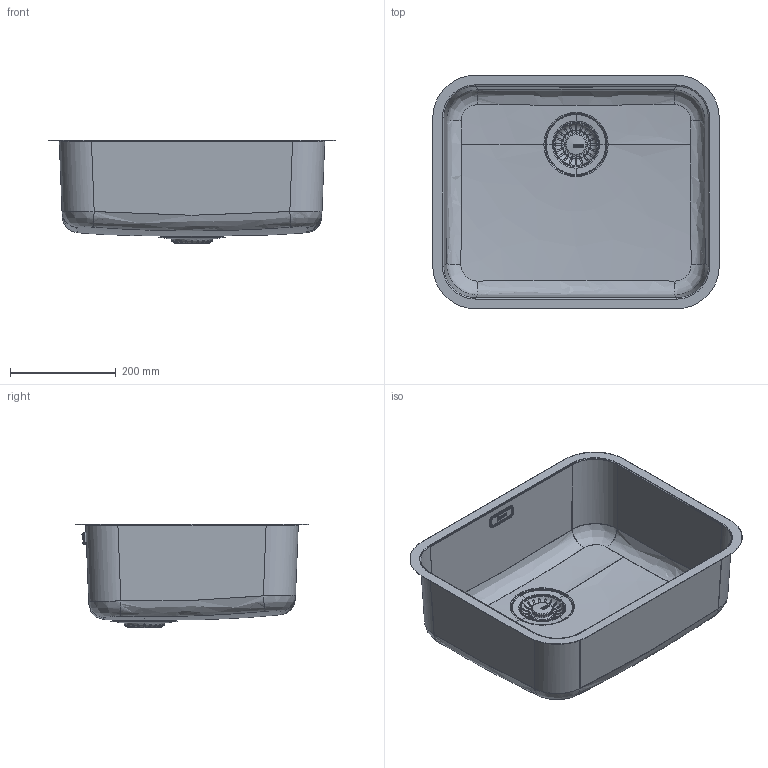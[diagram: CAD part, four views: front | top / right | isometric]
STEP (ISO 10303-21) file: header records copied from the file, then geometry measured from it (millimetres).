
FILE_DESCRIPTION(/* description */ (''),/* implementation_level */ '2;1');
FILE_NAME(/* name */ '3D001_Sinks_Smart_SRX-110-50-OFH',/* time_stamp */ '2024-07-01T10:09:27+02:00',/* author */ (''),/* organization */ (''),/* preprocessor_version */ 'ST-DEVELOPER v19.2',/* originating_system */ 'Rhino 8.8',/* authorisation */ '');
FILE_SCHEMA (('CONFIG_CONTROL_DESIGN'));
Length unit declared in the file: millimetre
Products named in the file (1): Document
Bounding box: 541 x 441 x 195.48 mm (x, y, z)
Volume: 386000.1 mm3; surface area: 994911.6 mm2
Topology: 3 solids, 9 shells, 961 faces, 2709 edges, 1802 vertices
Faces by surface type: plane 612, bspline 175, cylinder 174
Entity records: 42342 total; most frequent: CARTESIAN_POINT 20139, ORIENTED_EDGE 5278, DIRECTION 2904, EDGE_CURVE 2709, AXIS2_PLACEMENT_3D 1845, VERTEX_POINT 1802, B_SPLINE_CURVE_WITH_KNOTS 1624, TRIMMED_CURVE 1056
